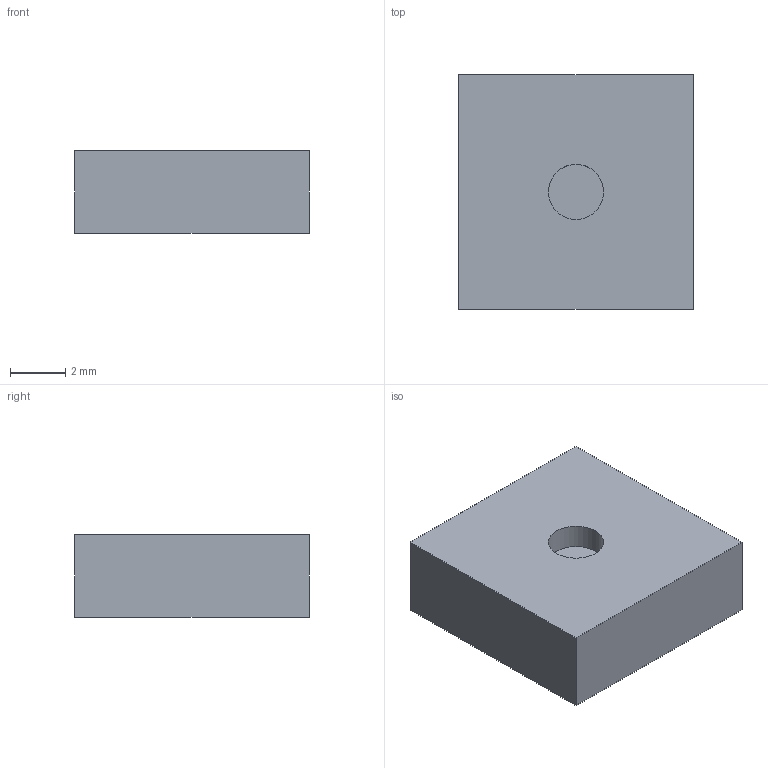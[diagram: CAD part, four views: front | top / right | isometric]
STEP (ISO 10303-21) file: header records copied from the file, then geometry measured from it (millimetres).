
FILE_DESCRIPTION(('Open CASCADE Model'),'2;1');
FILE_NAME('Open CASCADE Shape Model','2026-10-12T20:38:35',('Author'),( 'Open CASCADE'),'Open CASCADE STEP processor 8.0','build123d', 'Unknown');
FILE_SCHEMA(('AUTOMOTIVE_DESIGN { 1 0 10303 214 1 1 1 1 }'));
Length unit declared in the file: millimetre
Products named in the file (1): COMPOUND
Bounding box: 8.5 x 8.5 x 3 mm (x, y, z)
Volume: 213.9 mm3; surface area: 252.2 mm2
Topology: 1 solids, 1 shells, 8 faces, 15 edges, 10 vertices
Faces by surface type: plane 7, cylinder 1
Full cylindrical faces by diameter (mm): 2 x1
Entity records: 417 total; most frequent: DIRECTION 65, CARTESIAN_POINT 64, LINE 41, VECTOR 41, ORIENTED_EDGE 30, PCURVE 30, DEFINITIONAL_REPRESENTATION 30, EDGE_CURVE 15
